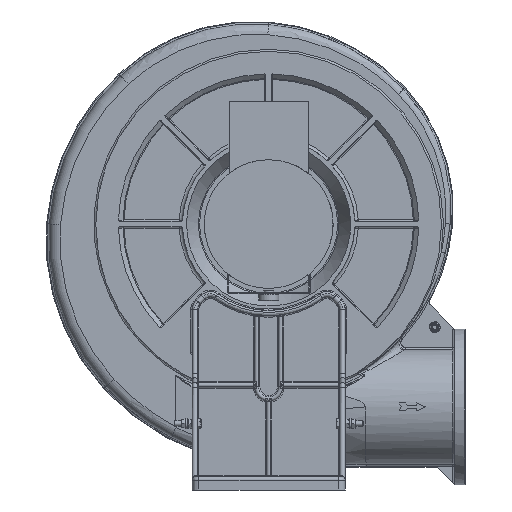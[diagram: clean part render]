
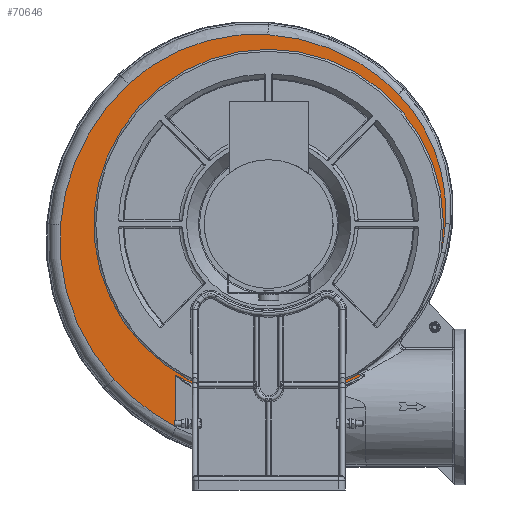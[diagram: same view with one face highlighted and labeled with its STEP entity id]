
A CAD part, left-side view. The second image highlights one B-rep face of the part: STEP entity #70646.
In plain terms, the highlighted planar face has unit normal (-1, 0, 0).
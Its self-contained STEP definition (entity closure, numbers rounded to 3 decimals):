
#471=ELLIPSE('',#74442,273.014,251.95);
#472=ELLIPSE('',#74461,0.574,0.282);
#2602=B_SPLINE_CURVE_WITH_KNOTS('',3,(#127287,#127288,#127289,#127290,#127291,
#127292,#127293),.UNSPECIFIED.,.F.,.F.,(4,1,1,1,4),(106.886,112.992,
116.045,122.151,128.257),.UNSPECIFIED.);
#2603=B_SPLINE_CURVE_WITH_KNOTS('',3,(#127345,#127346,#127347,#127348,#127349,
#127350,#127351),.UNSPECIFIED.,.F.,.F.,(4,1,1,1,4),(84.806,87.96,
94.269,100.577,106.886),.UNSPECIFIED.);
#2604=B_SPLINE_CURVE_WITH_KNOTS('',3,(#127403,#127404,#127405,#127406,#127407,
#127408,#127409),.UNSPECIFIED.,.F.,.F.,(4,1,1,1,4),(61.925,65.194,
71.731,78.269,84.806),.UNSPECIFIED.);
#2617=B_SPLINE_CURVE_WITH_KNOTS('',3,(#128308,#128309,#128310,#128311,#128312,
#128313,#128314,#128315,#128316),.UNSPECIFIED.,.F.,.F.,(4,2,1,1,1,4),(0.,
0.009,0.081,0.154,0.226,
0.371),.UNSPECIFIED.);
#5634=PLANE('',#74460);
#8924=FACE_OUTER_BOUND('',#13334,.T.);
#13334=EDGE_LOOP('',(#62600,#62601,#62602,#62603,#62604,#62605,#62606,#62607,
#62608,#62609,#62610,#62611,#62612));
#14623=CIRCLE('',#74448,322.167);
#14625=CIRCLE('',#74451,308.579);
#14627=CIRCLE('',#74454,345.);
#14630=CIRCLE('',#74459,263.);
#14631=CIRCLE('',#74462,267.);
#21636=LINE('',#127102,#28641);
#21643=LINE('',#128307,#28648);
#28641=VECTOR('',#88577,10.);
#28648=VECTOR('',#88630,10.);
#34708=VERTEX_POINT('',#127039);
#34710=VERTEX_POINT('',#127101);
#34717=VERTEX_POINT('',#127196);
#34718=VERTEX_POINT('',#127233);
#34719=VERTEX_POINT('',#127285);
#34720=VERTEX_POINT('',#127343);
#34721=VERTEX_POINT('',#127401);
#34722=VERTEX_POINT('',#127411);
#34723=VERTEX_POINT('',#127415);
#34737=VERTEX_POINT('',#128295);
#34738=VERTEX_POINT('',#128305);
#34739=VERTEX_POINT('',#128306);
#34740=VERTEX_POINT('',#128317);
#44076=EDGE_CURVE('',#34710,#34708,#21636,.T.);
#44087=EDGE_CURVE('',#34718,#34717,#471,.T.);
#44089=EDGE_CURVE('',#34719,#34718,#2602,.T.);
#44091=EDGE_CURVE('',#34720,#34719,#2603,.T.);
#44093=EDGE_CURVE('',#34721,#34720,#2604,.T.);
#44095=EDGE_CURVE('',#34722,#34721,#14623,.T.);
#44097=EDGE_CURVE('',#34723,#34722,#14625,.T.);
#44102=EDGE_CURVE('',#34710,#34723,#14627,.T.);
#44119=EDGE_CURVE('',#34717,#34737,#14630,.T.);
#44120=EDGE_CURVE('',#34738,#34739,#21643,.T.);
#44121=EDGE_CURVE('',#34737,#34738,#2617,.T.);
#44122=EDGE_CURVE('',#34740,#34708,#472,.F.);
#44123=EDGE_CURVE('',#34739,#34740,#14631,.T.);
#62600=ORIENTED_EDGE('',*,*,#44120,.F.);
#62601=ORIENTED_EDGE('',*,*,#44121,.F.);
#62602=ORIENTED_EDGE('',*,*,#44119,.F.);
#62603=ORIENTED_EDGE('',*,*,#44087,.F.);
#62604=ORIENTED_EDGE('',*,*,#44089,.F.);
#62605=ORIENTED_EDGE('',*,*,#44091,.F.);
#62606=ORIENTED_EDGE('',*,*,#44093,.F.);
#62607=ORIENTED_EDGE('',*,*,#44095,.F.);
#62608=ORIENTED_EDGE('',*,*,#44097,.F.);
#62609=ORIENTED_EDGE('',*,*,#44102,.F.);
#62610=ORIENTED_EDGE('',*,*,#44076,.T.);
#62611=ORIENTED_EDGE('',*,*,#44122,.F.);
#62612=ORIENTED_EDGE('',*,*,#44123,.F.);
#70646=ADVANCED_FACE('',(#8924),#5634,.F.);
#74442=AXIS2_PLACEMENT_3D('',#127235,#88587,#88588);
#74448=AXIS2_PLACEMENT_3D('',#127413,#88599,#88600);
#74451=AXIS2_PLACEMENT_3D('',#127417,#88605,#88606);
#74454=AXIS2_PLACEMENT_3D('',#127801,#88611,#88612);
#74459=AXIS2_PLACEMENT_3D('',#128303,#88626,#88627);
#74460=AXIS2_PLACEMENT_3D('',#128304,#88628,#88629);
#74461=AXIS2_PLACEMENT_3D('',#128318,#88631,#88632);
#74462=AXIS2_PLACEMENT_3D('',#128319,#88633,#88634);
#88577=DIRECTION('',(0.,0.,1.));
#88587=DIRECTION('center_axis',(1.,0.,0.));
#88588=DIRECTION('ref_axis',(0.,0.038,-0.999));
#88599=DIRECTION('center_axis',(1.,0.,0.));
#88600=DIRECTION('ref_axis',(0.,0.68,0.733));
#88605=DIRECTION('center_axis',(1.,0.,0.));
#88606=DIRECTION('ref_axis',(0.,1.,0.));
#88611=DIRECTION('center_axis',(1.,0.,0.));
#88612=DIRECTION('ref_axis',(0.,0.737,-0.676));
#88626=DIRECTION('center_axis',(-1.,0.,0.));
#88627=DIRECTION('ref_axis',(0.,1.,0.));
#88628=DIRECTION('center_axis',(1.,0.,0.));
#88629=DIRECTION('ref_axis',(0.,1.,0.));
#88630=DIRECTION('',(0.,-1.,0.));
#88631=DIRECTION('center_axis',(1.,0.,0.));
#88632=DIRECTION('ref_axis',(0.,-0.342,-0.94));
#88633=DIRECTION('center_axis',(1.,0.,0.));
#88634=DIRECTION('ref_axis',(0.,-0.016,-1.));
#127039=CARTESIAN_POINT('',(190.785,237.737,172.358));
#127101=CARTESIAN_POINT('',(190.785,237.737,95.081));
#127102=CARTESIAN_POINT('',(190.785,237.737,188.617));
#127196=CARTESIAN_POINT('',(190.785,-161.823,357.573));
#127233=CARTESIAN_POINT('',(190.785,-168.089,400.577));
#127235=CARTESIAN_POINT('Origin',(190.785,83.147,419.894));
#127285=CARTESIAN_POINT('',(190.785,-97.494,595.634));
#127287=CARTESIAN_POINT('Ctrl Pts',(190.785,-97.494,
595.634));
#127288=CARTESIAN_POINT('Ctrl Pts',(190.785,-111.714,
581.071));
#127289=CARTESIAN_POINT('Ctrl Pts',(190.785,-130.315,
556.568));
#127290=CARTESIAN_POINT('Ctrl Pts',(190.785,-153.238,511.027));
#127291=CARTESIAN_POINT('Ctrl Pts',(190.785,-167.642,461.834));
#127292=CARTESIAN_POINT('Ctrl Pts',(190.785,-169.533,
420.879));
#127293=CARTESIAN_POINT('Ctrl Pts',(190.785,-168.089,
400.577));
#127343=CARTESIAN_POINT('',(190.785,98.956,685.02));
#127345=CARTESIAN_POINT('Ctrl Pts',(190.785,98.956,685.02));
#127346=CARTESIAN_POINT('Ctrl Pts',(190.785,88.462,684.371));
#127347=CARTESIAN_POINT('Ctrl Pts',(190.785,57.082,680.809));
#127348=CARTESIAN_POINT('Ctrl Pts',(190.785,6.129,666.783));
#127349=CARTESIAN_POINT('Ctrl Pts',(190.785,-50.188,
637.603));
#127350=CARTESIAN_POINT('Ctrl Pts',(190.785,-82.803,
610.68));
#127351=CARTESIAN_POINT('Ctrl Pts',(190.785,-97.494,
595.634));
#127401=CARTESIAN_POINT('',(190.785,308.743,610.416));
#127403=CARTESIAN_POINT('Ctrl Pts',(190.785,308.743,610.416));
#127404=CARTESIAN_POINT('Ctrl Pts',(190.785,300.756,617.83));
#127405=CARTESIAN_POINT('Ctrl Pts',(190.785,275.466,638.641));
#127406=CARTESIAN_POINT('Ctrl Pts',(190.785,227.697,665.595));
#127407=CARTESIAN_POINT('Ctrl Pts',(190.785,164.522,684.059));
#127408=CARTESIAN_POINT('Ctrl Pts',(190.785,120.705,686.364));
#127409=CARTESIAN_POINT('Ctrl Pts',(190.785,98.956,685.02));
#127411=CARTESIAN_POINT('',(190.785,410.787,398.919));
#127413=CARTESIAN_POINT('Origin',(190.785,89.563,374.3));
#127415=CARTESIAN_POINT('',(190.785,330.411,166.639));
#127417=CARTESIAN_POINT('Origin',(190.785,103.11,375.338));
#127801=CARTESIAN_POINT('Origin',(190.785,76.282,399.97));
#128295=CARTESIAN_POINT('',(190.785,-36.816,173.996));
#128303=CARTESIAN_POINT('Origin',(190.785,97.737,399.97));
#128304=CARTESIAN_POINT('Origin',(190.785,82.786,339.265));
#128305=CARTESIAN_POINT('',(190.785,-40.362,173.188));
#128306=CARTESIAN_POINT('',(190.785,-43.185,173.188));
#128307=CARTESIAN_POINT('',(190.785,-47.263,173.188));
#128308=CARTESIAN_POINT('Ctrl Pts',(190.785,-36.816,173.996));
#128309=CARTESIAN_POINT('Ctrl Pts',(190.785,-36.836,173.974));
#128310=CARTESIAN_POINT('Ctrl Pts',(190.785,-36.857,173.953));
#128311=CARTESIAN_POINT('Ctrl Pts',(190.785,-37.058,
173.77));
#128312=CARTESIAN_POINT('Ctrl Pts',(190.785,-37.496,
173.55));
#128313=CARTESIAN_POINT('Ctrl Pts',(190.785,-38.196,
173.362));
#128314=CARTESIAN_POINT('Ctrl Pts',(190.785,-39.155,
173.218));
#128315=CARTESIAN_POINT('Ctrl Pts',(190.785,-39.879,
173.188));
#128316=CARTESIAN_POINT('Ctrl Pts',(190.785,-40.362,
173.188));
#128317=CARTESIAN_POINT('',(190.785,237.685,172.586));
#128318=CARTESIAN_POINT('Origin',(190.785,237.408,172.114));
#128319=CARTESIAN_POINT('Origin',(190.785,97.737,399.97));
